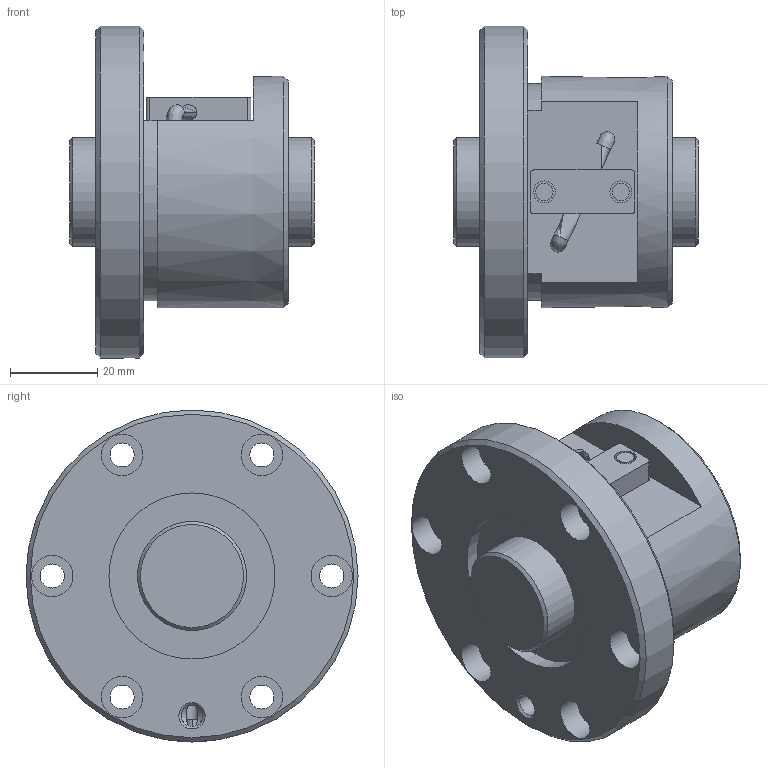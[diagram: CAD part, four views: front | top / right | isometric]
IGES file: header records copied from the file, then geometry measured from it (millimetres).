
Start section: Data from Parasolid IGES Translator 26.0.171, Copyright(c) 2006 Siemens PLM Software. All Rights Reserved.
Global section: file name: BNF2506V-2.5RRG1+56LC0_000_rev.igs; native system: By Siemens PLM Incorporated; preprocessor: XPlus GENERIC/IGES 26.0.171; author: Noname; organization: Noname; date: 20240806.072917; units: millimetre
Bounding box: 56 x 76 x 76 mm (x, y, z)
Surface area: 27829.3 mm2 (no closed solid volume)
Topology: 0 solids, 0 shells, 72 faces, 316 edges, 272 vertices
Faces by surface type: revolution 45, extrusion 27
